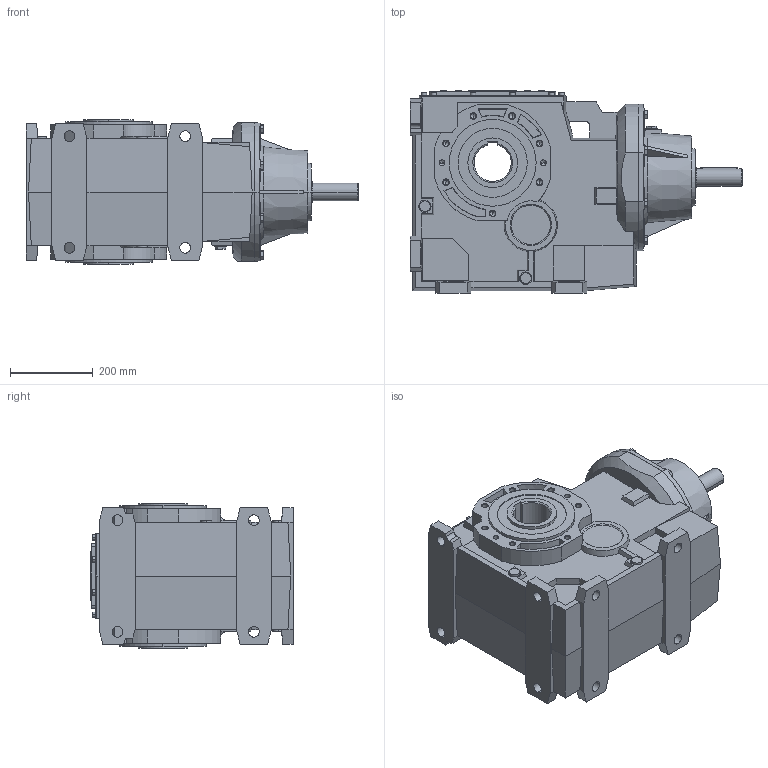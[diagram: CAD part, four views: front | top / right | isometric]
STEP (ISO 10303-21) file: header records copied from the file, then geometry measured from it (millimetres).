
FILE_DESCRIPTION( ( '' ), '1' );
FILE_NAME( '//expscmdclustefs.cadenas.external/client_exchange/iodir/jobs/output/wkb50752460_no0/STEP/IB153UC10_4942x110900000_2_03.stp', '2012-11-05T02:32:02', ( '' ), ( '' ), ' ', ' ', ' ' );
FILE_SCHEMA( ( 'CONFIG_CONTROL_DESIGN' ) );
Length unit declared in the file: millimetre
Products named in the file (4): 1; 2; 3; 4
Bounding box: 803 x 489.5 x 350 mm (x, y, z)
Volume: 68633629.5 mm3; surface area: 2031962.8 mm2
Topology: 4 solids, 4 shells, 772 faces, 1989 edges, 1270 vertices
Faces by surface type: plane 457, cylinder 205, cone 110
Entity records: 23417 total; most frequent: CARTESIAN_POINT 4343, DIRECTION 3961, ORIENTED_EDGE 3902, EDGE_CURVE 1951, AXIS2_PLACEMENT_3D 1336, LINE 1289, VECTOR 1289, VERTEX_POINT 1270
